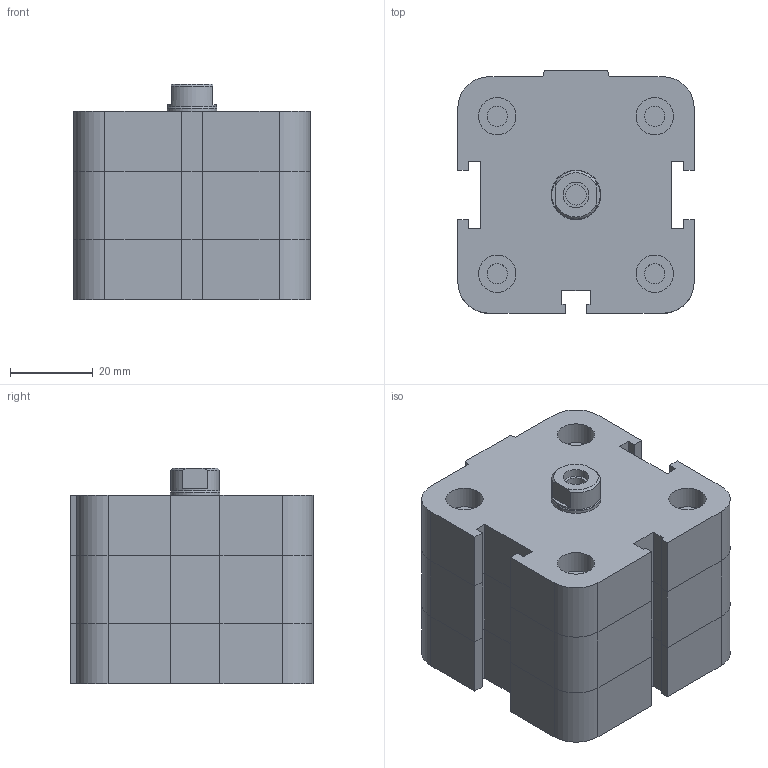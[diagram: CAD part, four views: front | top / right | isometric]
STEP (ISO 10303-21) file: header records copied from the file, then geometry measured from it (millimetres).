
FILE_DESCRIPTION((''),'2;1');
FILE_NAME('I:\Area Tecnica\Disegni\VARIE-3D\Componenti\EUROPE\15##_###_####_01_#\1581_40_0000_01_1.stp','2008-12-19T15:43:15',('rivolro1'),(''),'Autodesk Inventor 2009','Autodesk Inventor 2009','');
FILE_SCHEMA(('AUTOMOTIVE_DESIGN { 1 0 10303 214 1 1 1 1 }'));
Length unit declared in the file: millimetre
Products named in the file (3): 1581_40_0000_01_1; 1581_40_0000_01_1_C; 1561_40_0000_01_1_S
Assembly tree (2 placements, depth 2):
  1581_40_0000_01_1
    1581_40_0000_01_1_C
    1561_40_0000_01_1_S
Bounding box: 57 x 58.5 x 52 mm (x, y, z)
Volume: 132867.8 mm3; surface area: 23679.3 mm2
Topology: 2 solids, 2 shells, 163 faces, 349 edges, 211 vertices
Faces by surface type: plane 112, bspline 26, cylinder 22, cone 3
Full cylindrical faces by diameter (mm): 4.917 x4, 9 x4, 11.7 x1, 12 x1
Entity records: 4455 total; most frequent: CARTESIAN_POINT 952, DIRECTION 662, ORIENTED_EDGE 630, EDGE_CURVE 315, VECTOR 244, LINE 244, AXIS2_PLACEMENT_3D 209, EDGE_LOOP 208
